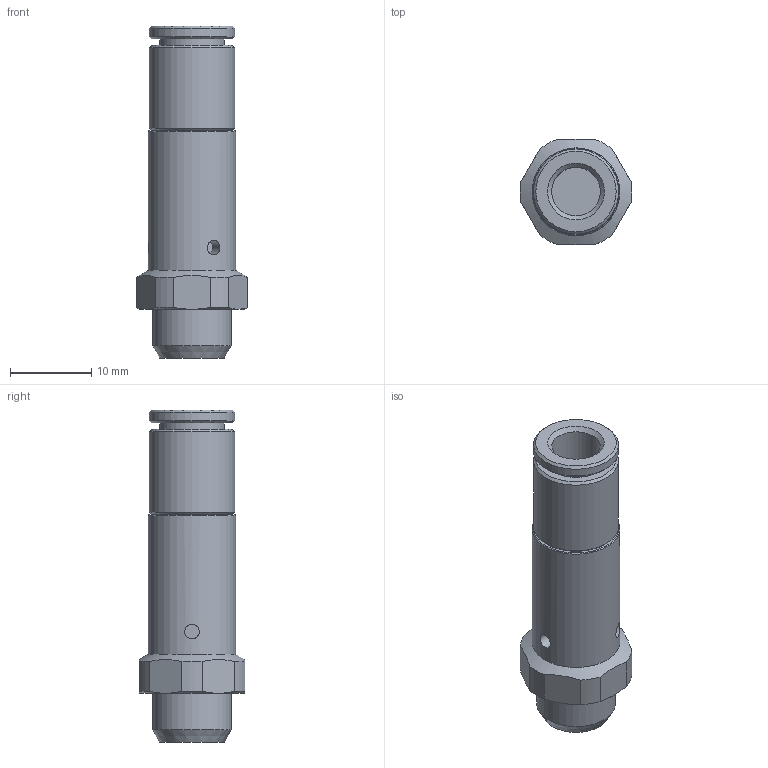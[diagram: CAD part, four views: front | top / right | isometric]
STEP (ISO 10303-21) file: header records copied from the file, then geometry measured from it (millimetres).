
FILE_DESCRIPTION(/* description */ ('V. S.RAPIDO IN TUBO d.6 OUT G1/8"'),/* implementation_level */ '2;1');
FILE_NAME(/* name */ 'I:\Area Tecnica\Disegni\VARIE-3D\Componenti\600\6_02_##_##_L\6_02_06_18_L.stp',/* time_stamp */ '2017-01-20T13:59:13+01:00',/* author */ ('maniean1'),/* organization */ ('Pneumax S.p.A.'),/* preprocessor_version */ 'ST-DEVELOPER v15.2',/* originating_system */ 'Autodesk Inventor 2014',/* authorisation */ '');
FILE_SCHEMA (('AUTOMOTIVE_DESIGN { 1 0 10303 214 3 1 1 }'));
Length unit declared in the file: millimetre
Products named in the file (1): 6_02_06_18_L
Bounding box: 13.77 x 13 x 40.9 mm (x, y, z)
Volume: 3279.4 mm3; surface area: 2017.3 mm2
Topology: 1 solids, 1 shells, 45 faces, 91 edges, 56 vertices
Faces by surface type: plane 16, cylinder 15, cone 14
Full cylindrical faces by diameter (mm): 1.8 x3, 6 x1, 8 x1, 9.728 x1, 10.5 x2, 10.8 x1
Entity records: 1178 total; most frequent: CARTESIAN_POINT 309, DIRECTION 184, ORIENTED_EDGE 146, AXIS2_PLACEMENT_3D 86, EDGE_CURVE 73, EDGE_LOOP 70, VERTEX_POINT 55, ADVANCED_FACE 45
